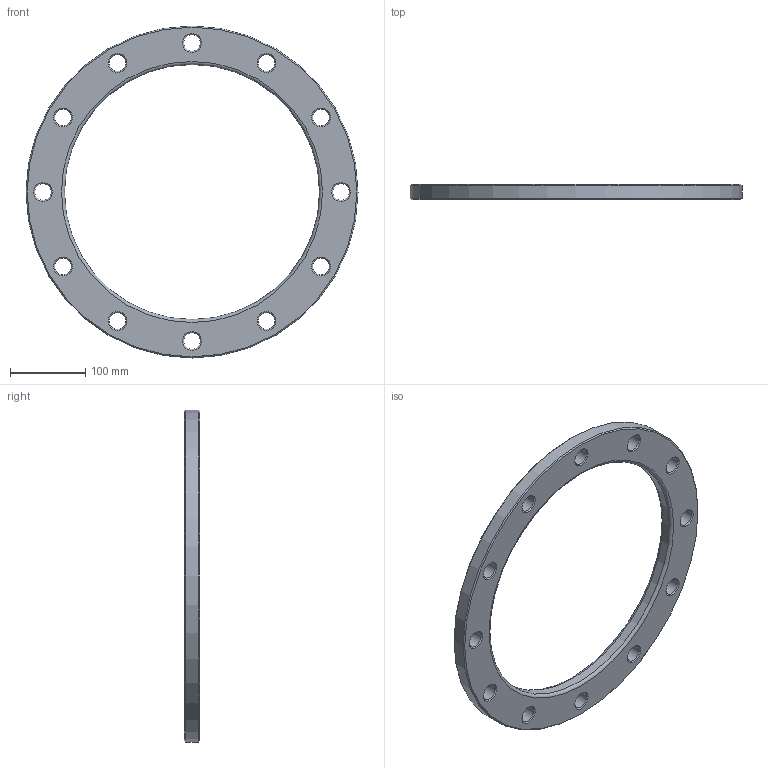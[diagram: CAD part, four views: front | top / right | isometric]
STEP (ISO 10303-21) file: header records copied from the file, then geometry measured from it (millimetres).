
FILE_DESCRIPTION(/* description */ ('Unknown'),/* implementation_level */ '2;1');
FILE_NAME(/* name */ 'FZ315A',/* time_stamp */ '2021-03-13T11:53:00+01:00',/* author */ ('Unknown'),/* organization */ ('Unknown'),/* preprocessor_version */ 'ST-DEVELOPER v16.7',/* originating_system */ 'Solid Edge',/* authorisation */ 'Unknown');
FILE_SCHEMA (('AUTOMOTIVE_DESIGN {1 0 10303 214 3 1 1}'));
Length unit declared in the file: millimetre
Products named in the file (1): FZ315A
Bounding box: 440 x 20 x 440 mm (x, y, z)
Volume: 1142904.6 mm3; surface area: 173545.6 mm2
Topology: 1 solids, 1 shells, 44 faces, 134 edges, 92 vertices
Faces by surface type: cone 26, cylinder 14, plane 2, torus 2
Full cylindrical faces by diameter (mm): 22 x12, 338 x1, 440 x1
Entity records: 1086 total; most frequent: DIRECTION 202, CARTESIAN_POINT 157, ORIENTED_EDGE 112, EDGE_LOOP 112, FACE_BOUND 112, AXIS2_PLACEMENT_3D 101, EDGE_CURVE 56, VERTEX_POINT 56
